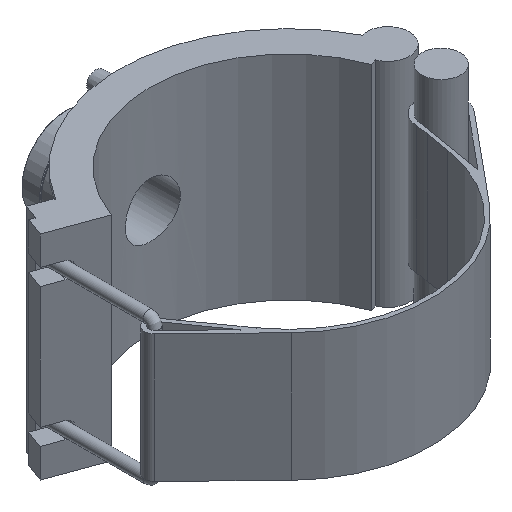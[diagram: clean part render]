
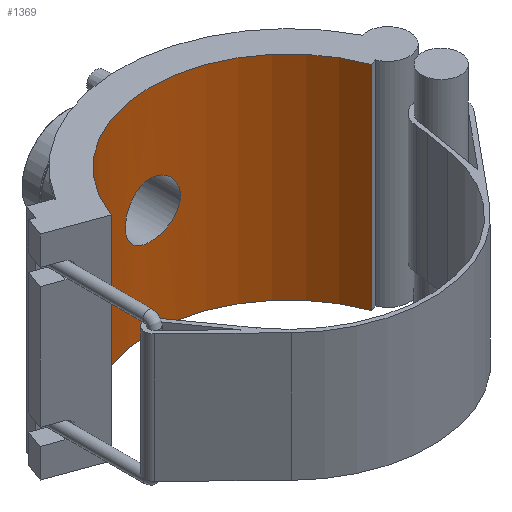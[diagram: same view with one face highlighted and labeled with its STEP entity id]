
A CAD part, isometric view. The second image highlights one B-rep face of the part: STEP entity #1369.
In plain terms, the highlighted cylindrical face has radius 114.45 mm (diameter 228.9 mm), a partial arc.
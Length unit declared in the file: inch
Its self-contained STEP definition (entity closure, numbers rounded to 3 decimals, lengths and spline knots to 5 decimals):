
#27=B_SPLINE_CURVE_WITH_KNOTS('',3,(#2424,#2425,#2426,#2427,#2428,#2429,
#2430,#2431,#2432,#2433,#2434,#2435,#2436,#2437,#2438,#2439,#2440,#2441,
#2442,#2443,#2444,#2445,#2446,#2447,#2448,#2449,#2450,#2451,#2452,#2453,
#2454,#2455,#2456,#2457,#2458,#2459,#2460,#2461,#2462,#2463,#2464,#2465,
#2466,#2467,#2468,#2469,#2470,#2471,#2472,#2473,#2474,#2475,#2476,#2477,
#2478,#2479,#2480,#2481,#2482,#2483,#2484,#2485,#2486,#2487,#2488,#2489),
 .UNSPECIFIED.,.T.,.F.,(4,2,2,2,2,2,2,2,2,2,2,2,2,2,2,2,2,2,2,2,2,2,2,2,
2,2,2,2,2,2,2,2,4),(0.,0.42806,0.85612,1.28419,
1.71225,2.14029,2.56832,2.99636,3.4244,
3.85244,4.28048,4.70852,5.13656,5.56462,
5.99268,6.42074,6.8488,7.27687,7.70493,
8.13299,8.56105,8.98909,9.41713,9.84517,
10.27321,10.70125,11.12928,11.55732,11.98536,
12.41342,12.84149,13.26955,13.69761),
 .UNSPECIFIED.);
#52=CYLINDRICAL_SURFACE('',#1517,4.50591);
#75=FACE_BOUND('',#295,.T.);
#119=CIRCLE('',#1483,4.50591);
#130=CIRCLE('',#1515,4.50591);
#205=FACE_OUTER_BOUND('',#294,.T.);
#294=EDGE_LOOP('',(#1181,#1182,#1183,#1184));
#295=EDGE_LOOP('',(#1185));
#374=LINE('',#2141,#488);
#426=LINE('',#2421,#540);
#488=VECTOR('',#1714,0.3937);
#540=VECTOR('',#1868,0.3937);
#619=VERTEX_POINT('',#2138);
#620=VERTEX_POINT('',#2140);
#641=VERTEX_POINT('',#2210);
#657=VERTEX_POINT('',#2417);
#658=VERTEX_POINT('',#2423);
#764=EDGE_CURVE('',#620,#619,#374,.T.);
#800=EDGE_CURVE('',#620,#641,#119,.T.);
#837=EDGE_CURVE('',#657,#619,#130,.T.);
#838=EDGE_CURVE('',#657,#641,#426,.T.);
#839=EDGE_CURVE('',#658,#658,#27,.T.);
#1181=ORIENTED_EDGE('',*,*,#838,.T.);
#1182=ORIENTED_EDGE('',*,*,#800,.F.);
#1183=ORIENTED_EDGE('',*,*,#764,.T.);
#1184=ORIENTED_EDGE('',*,*,#837,.F.);
#1185=ORIENTED_EDGE('',*,*,#839,.T.);
#1369=ADVANCED_FACE('',(#205,#75),#52,.F.);
#1483=AXIS2_PLACEMENT_3D('',#2211,#1780,#1781);
#1515=AXIS2_PLACEMENT_3D('',#2419,#1864,#1865);
#1517=AXIS2_PLACEMENT_3D('',#2422,#1869,#1870);
#1714=DIRECTION('',(0.,0.,-1.));
#1780=DIRECTION('center_axis',(0.,0.,-1.));
#1781=DIRECTION('ref_axis',(-1.,0.,0.));
#1864=DIRECTION('center_axis',(0.,0.,1.));
#1865=DIRECTION('ref_axis',(-1.,0.,0.));
#1868=DIRECTION('',(0.,0.,1.));
#1869=DIRECTION('center_axis',(0.,0.,1.));
#1870=DIRECTION('ref_axis',(-1.,0.,0.));
#2138=CARTESIAN_POINT('',(-4.23417,1.54111,-3.465));
#2140=CARTESIAN_POINT('',(-4.23417,1.54111,3.465));
#2141=CARTESIAN_POINT('',(-4.23417,1.54111,0.));
#2210=CARTESIAN_POINT('',(4.23417,1.54111,3.465));
#2211=CARTESIAN_POINT('Origin',(0.,0.,3.465));
#2417=CARTESIAN_POINT('',(4.23417,1.54111,-3.465));
#2419=CARTESIAN_POINT('Origin',(0.,0.,-3.465));
#2421=CARTESIAN_POINT('',(4.23417,1.54111,0.));
#2422=CARTESIAN_POINT('Origin',(0.,0.,0.));
#2423=CARTESIAN_POINT('',(0.89222,4.41669,0.));
#2424=CARTESIAN_POINT('Ctrl Pts',(0.89222,4.41669,0.));
#2425=CARTESIAN_POINT('Ctrl Pts',(0.89222,4.41669,-0.05618));
#2426=CARTESIAN_POINT('Ctrl Pts',(0.88683,4.41779,-0.11422));
#2427=CARTESIAN_POINT('Ctrl Pts',(0.86418,4.42228,-0.22959));
#2428=CARTESIAN_POINT('Ctrl Pts',(0.84692,4.42566,-0.28692));
#2429=CARTESIAN_POINT('Ctrl Pts',(0.80135,4.43414,-0.39678));
#2430=CARTESIAN_POINT('Ctrl Pts',(0.773,4.43923,-0.44941));
#2431=CARTESIAN_POINT('Ctrl Pts',(0.70753,4.45013,-0.54671));
#2432=CARTESIAN_POINT('Ctrl Pts',(0.67042,4.45593,-0.59137));
#2433=CARTESIAN_POINT('Ctrl Pts',(0.59137,4.46711,-0.67042));
#2434=CARTESIAN_POINT('Ctrl Pts',(0.54671,4.47288,-0.70753));
#2435=CARTESIAN_POINT('Ctrl Pts',(0.44942,4.4837,-0.77299));
#2436=CARTESIAN_POINT('Ctrl Pts',(0.39678,4.48874,-0.80135));
#2437=CARTESIAN_POINT('Ctrl Pts',(0.28691,4.4971,-0.84692));
#2438=CARTESIAN_POINT('Ctrl Pts',(0.22959,4.50042,-0.86418));
#2439=CARTESIAN_POINT('Ctrl Pts',(0.11422,4.50483,-0.88683));
#2440=CARTESIAN_POINT('Ctrl Pts',(0.05617,4.50591,-0.89222));
#2441=CARTESIAN_POINT('Ctrl Pts',(-0.05617,4.50591,
-0.89222));
#2442=CARTESIAN_POINT('Ctrl Pts',(-0.11422,4.50483,-0.88683));
#2443=CARTESIAN_POINT('Ctrl Pts',(-0.22959,4.50042,-0.86418));
#2444=CARTESIAN_POINT('Ctrl Pts',(-0.28691,4.4971,-0.84692));
#2445=CARTESIAN_POINT('Ctrl Pts',(-0.39678,4.48874,-0.80135));
#2446=CARTESIAN_POINT('Ctrl Pts',(-0.44942,4.4837,-0.77299));
#2447=CARTESIAN_POINT('Ctrl Pts',(-0.54671,4.47288,-0.70753));
#2448=CARTESIAN_POINT('Ctrl Pts',(-0.59137,4.46711,-0.67042));
#2449=CARTESIAN_POINT('Ctrl Pts',(-0.67042,4.45593,-0.59137));
#2450=CARTESIAN_POINT('Ctrl Pts',(-0.70753,4.45013,-0.54671));
#2451=CARTESIAN_POINT('Ctrl Pts',(-0.773,4.43923,-0.44941));
#2452=CARTESIAN_POINT('Ctrl Pts',(-0.80135,4.43414,-0.39678));
#2453=CARTESIAN_POINT('Ctrl Pts',(-0.84692,4.42566,-0.28692));
#2454=CARTESIAN_POINT('Ctrl Pts',(-0.86418,4.42228,-0.22959));
#2455=CARTESIAN_POINT('Ctrl Pts',(-0.88683,4.41779,-0.11422));
#2456=CARTESIAN_POINT('Ctrl Pts',(-0.89222,4.41669,-0.05618));
#2457=CARTESIAN_POINT('Ctrl Pts',(-0.89222,4.41669,0.05618));
#2458=CARTESIAN_POINT('Ctrl Pts',(-0.88683,4.41779,0.11422));
#2459=CARTESIAN_POINT('Ctrl Pts',(-0.86418,4.42228,0.22959));
#2460=CARTESIAN_POINT('Ctrl Pts',(-0.84692,4.42566,0.28692));
#2461=CARTESIAN_POINT('Ctrl Pts',(-0.80135,4.43414,0.39678));
#2462=CARTESIAN_POINT('Ctrl Pts',(-0.773,4.43923,0.44941));
#2463=CARTESIAN_POINT('Ctrl Pts',(-0.70753,4.45013,0.54671));
#2464=CARTESIAN_POINT('Ctrl Pts',(-0.67042,4.45593,0.59137));
#2465=CARTESIAN_POINT('Ctrl Pts',(-0.59137,4.46711,0.67042));
#2466=CARTESIAN_POINT('Ctrl Pts',(-0.54671,4.47288,0.70753));
#2467=CARTESIAN_POINT('Ctrl Pts',(-0.44942,4.4837,0.77299));
#2468=CARTESIAN_POINT('Ctrl Pts',(-0.39678,4.48874,0.80135));
#2469=CARTESIAN_POINT('Ctrl Pts',(-0.28691,4.4971,0.84692));
#2470=CARTESIAN_POINT('Ctrl Pts',(-0.22959,4.50042,0.86418));
#2471=CARTESIAN_POINT('Ctrl Pts',(-0.11422,4.50483,0.88683));
#2472=CARTESIAN_POINT('Ctrl Pts',(-0.05617,4.50591,
0.89222));
#2473=CARTESIAN_POINT('Ctrl Pts',(0.05617,4.50591,0.89222));
#2474=CARTESIAN_POINT('Ctrl Pts',(0.11422,4.50483,0.88683));
#2475=CARTESIAN_POINT('Ctrl Pts',(0.22959,4.50042,0.86418));
#2476=CARTESIAN_POINT('Ctrl Pts',(0.28691,4.4971,0.84692));
#2477=CARTESIAN_POINT('Ctrl Pts',(0.39678,4.48874,0.80135));
#2478=CARTESIAN_POINT('Ctrl Pts',(0.44942,4.4837,0.77299));
#2479=CARTESIAN_POINT('Ctrl Pts',(0.54671,4.47288,0.70753));
#2480=CARTESIAN_POINT('Ctrl Pts',(0.59137,4.46711,0.67042));
#2481=CARTESIAN_POINT('Ctrl Pts',(0.67042,4.45593,0.59137));
#2482=CARTESIAN_POINT('Ctrl Pts',(0.70753,4.45013,0.54671));
#2483=CARTESIAN_POINT('Ctrl Pts',(0.773,4.43923,0.44941));
#2484=CARTESIAN_POINT('Ctrl Pts',(0.80135,4.43414,0.39678));
#2485=CARTESIAN_POINT('Ctrl Pts',(0.84692,4.42566,0.28692));
#2486=CARTESIAN_POINT('Ctrl Pts',(0.86418,4.42228,0.22959));
#2487=CARTESIAN_POINT('Ctrl Pts',(0.88683,4.41779,0.11422));
#2488=CARTESIAN_POINT('Ctrl Pts',(0.89222,4.41669,0.05618));
#2489=CARTESIAN_POINT('Ctrl Pts',(0.89222,4.41669,0.));
